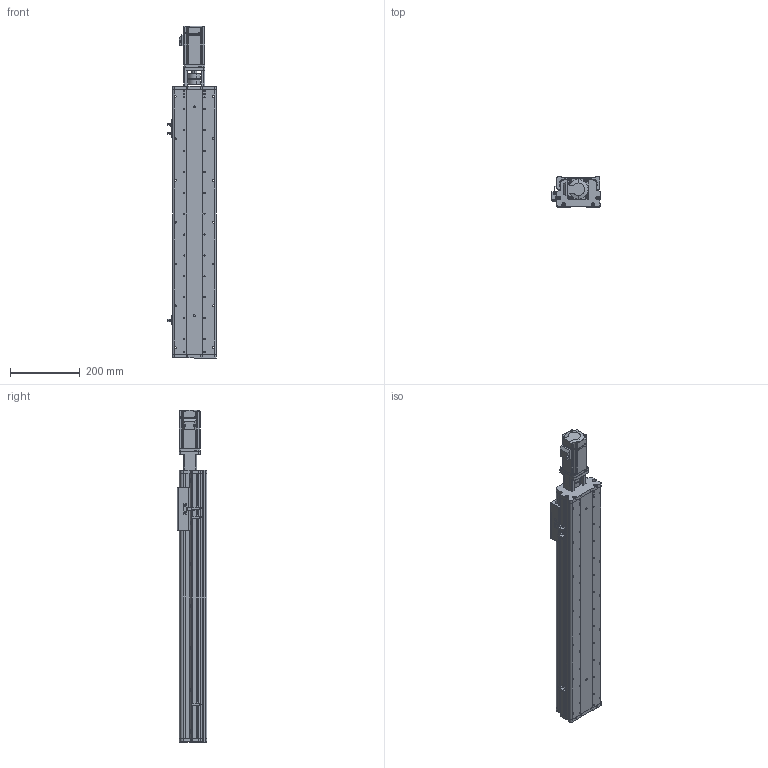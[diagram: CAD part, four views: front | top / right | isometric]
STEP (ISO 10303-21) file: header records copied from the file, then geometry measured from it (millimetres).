
FILE_DESCRIPTION (( 'STEP AP214' ), '1' );
FILE_NAME ('KSD125S-S550-MT-CM.STEP', '2017-08-07T06:43:02', ( '微软用户' ), ( '微软中国' ), 'SwSTEP 2.0', 'SolidWorks 2014', '' );
FILE_SCHEMA (( 'AUTOMOTIVE_DESIGN' ));
Length unit declared in the file: millimetre
Products named in the file (13): MHMD042G1CA_2_03; KSD125S-550俴最佪裝菁啣; KSD125S-550俴最佪裝滅鳥裔; 100遵鎮湛假蚾啣1 ; 拸萇儂釱滅袉菜; 覜茼え68遵圉猾敕; U倰嫖萇假蚾璃; U倰嫖萇EEㄜSX672; ヶ傷啣-125遵耀郪; KSD125-賑雄釱1; CS-34X32-10X14; 125-帣傷啣1; KSD125S-S550-MT-CM
Assembly tree (16 placements, depth 2):
  KSD125S-S550-MT-CM
    125-帣傷啣1
    CS-34X32-10X14
    KSD125-賑雄釱1
    ヶ傷啣-125遵耀郪
    U倰嫖萇EEㄜSX672  x3
    U倰嫖萇假蚾璃  x3
    覜茼え68遵圉猾敕
    拸萇儂釱滅袉菜
    100遵鎮湛假蚾啣1 
    MHMD042G1CA_2_03
    KSD125S-550俴最佪裝菁啣
    KSD125S-550俴最佪裝滅鳥裔
Bounding box: 138.7 x 86 x 953.5 mm (x, y, z)
Volume: 2703552.2 mm3; surface area: 899819.6 mm2
Topology: 15 solids, 18 shells, 1532 faces, 4418 edges, 2907 vertices
Faces by surface type: cylinder 778, plane 641, cone 91, bspline 22
Entity records: 53947 total; most frequent: CARTESIAN_POINT 11358, DIRECTION 7736, ORIENTED_EDGE 7344, EDGE_CURVE 3750, AXIS2_PLACEMENT_3D 2855, VERTEX_POINT 2499, VECTOR 2026, LINE 2026
